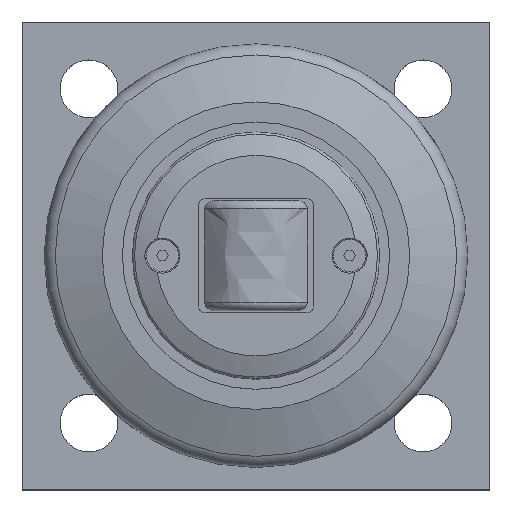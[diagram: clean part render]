
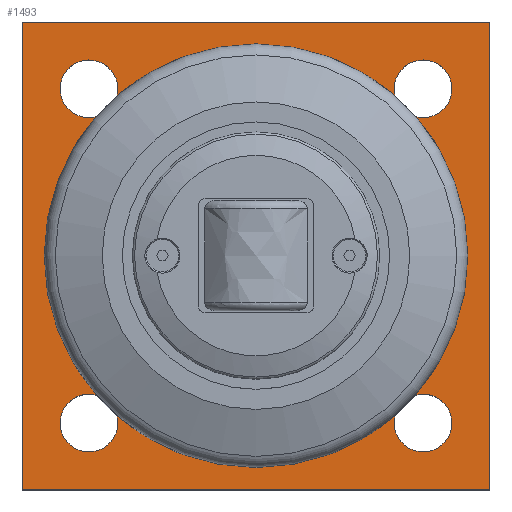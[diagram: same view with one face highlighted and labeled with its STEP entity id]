
A CAD part, top view. The second image highlights one B-rep face of the part: STEP entity #1493.
In plain terms, the highlighted planar face has unit normal (0, 0, 1).
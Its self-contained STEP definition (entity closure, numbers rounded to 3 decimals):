
#80=FACE_BOUND('',#335,.T.);
#81=FACE_BOUND('',#336,.T.);
#82=FACE_BOUND('',#337,.T.);
#83=FACE_BOUND('',#338,.T.);
#84=FACE_BOUND('',#339,.T.);
#167=CIRCLE('',#1670,39.5);
#168=CIRCLE('',#1672,8.647);
#169=CIRCLE('',#1673,8.647);
#170=CIRCLE('',#1674,8.647);
#171=CIRCLE('',#1675,8.647);
#172=CIRCLE('',#1676,8.647);
#173=CIRCLE('',#1677,8.647);
#174=CIRCLE('',#1678,8.647);
#175=CIRCLE('',#1679,8.647);
#245=FACE_OUTER_BOUND('',#334,.T.);
#334=EDGE_LOOP('',(#1289,#1290,#1291,#1292));
#335=EDGE_LOOP('',(#1293));
#336=EDGE_LOOP('',(#1294,#1295));
#337=EDGE_LOOP('',(#1296,#1297));
#338=EDGE_LOOP('',(#1298,#1299));
#339=EDGE_LOOP('',(#1300,#1301));
#439=LINE('',#2656,#550);
#440=LINE('',#2658,#551);
#441=LINE('',#2660,#552);
#442=LINE('',#2661,#553);
#550=VECTOR('',#2062,10.);
#551=VECTOR('',#2063,10.);
#552=VECTOR('',#2064,10.);
#553=VECTOR('',#2065,10.);
#698=VERTEX_POINT('',#2650);
#699=VERTEX_POINT('',#2654);
#700=VERTEX_POINT('',#2655);
#701=VERTEX_POINT('',#2657);
#702=VERTEX_POINT('',#2659);
#703=VERTEX_POINT('',#2662);
#704=VERTEX_POINT('',#2663);
#705=VERTEX_POINT('',#2666);
#706=VERTEX_POINT('',#2667);
#707=VERTEX_POINT('',#2670);
#708=VERTEX_POINT('',#2671);
#709=VERTEX_POINT('',#2674);
#710=VERTEX_POINT('',#2675);
#902=EDGE_CURVE('',#698,#698,#167,.T.);
#903=EDGE_CURVE('',#699,#700,#439,.T.);
#904=EDGE_CURVE('',#701,#699,#440,.T.);
#905=EDGE_CURVE('',#702,#701,#441,.T.);
#906=EDGE_CURVE('',#700,#702,#442,.T.);
#907=EDGE_CURVE('',#703,#704,#168,.T.);
#908=EDGE_CURVE('',#704,#703,#169,.T.);
#909=EDGE_CURVE('',#705,#706,#170,.T.);
#910=EDGE_CURVE('',#706,#705,#171,.T.);
#911=EDGE_CURVE('',#707,#708,#172,.T.);
#912=EDGE_CURVE('',#708,#707,#173,.T.);
#913=EDGE_CURVE('',#709,#710,#174,.T.);
#914=EDGE_CURVE('',#710,#709,#175,.T.);
#1289=ORIENTED_EDGE('',*,*,#903,.F.);
#1290=ORIENTED_EDGE('',*,*,#904,.F.);
#1291=ORIENTED_EDGE('',*,*,#905,.F.);
#1292=ORIENTED_EDGE('',*,*,#906,.F.);
#1293=ORIENTED_EDGE('',*,*,#902,.T.);
#1294=ORIENTED_EDGE('',*,*,#907,.T.);
#1295=ORIENTED_EDGE('',*,*,#908,.T.);
#1296=ORIENTED_EDGE('',*,*,#909,.T.);
#1297=ORIENTED_EDGE('',*,*,#910,.T.);
#1298=ORIENTED_EDGE('',*,*,#911,.T.);
#1299=ORIENTED_EDGE('',*,*,#912,.T.);
#1300=ORIENTED_EDGE('',*,*,#913,.T.);
#1301=ORIENTED_EDGE('',*,*,#914,.T.);
#1416=PLANE('',#1671);
#1493=ADVANCED_FACE('',(#245,#80,#81,#82,#83,#84),#1416,.T.);
#1670=AXIS2_PLACEMENT_3D('',#2652,#2058,#2059);
#1671=AXIS2_PLACEMENT_3D('',#2653,#2060,#2061);
#1672=AXIS2_PLACEMENT_3D('',#2664,#2066,#2067);
#1673=AXIS2_PLACEMENT_3D('',#2665,#2068,#2069);
#1674=AXIS2_PLACEMENT_3D('',#2668,#2070,#2071);
#1675=AXIS2_PLACEMENT_3D('',#2669,#2072,#2073);
#1676=AXIS2_PLACEMENT_3D('',#2672,#2074,#2075);
#1677=AXIS2_PLACEMENT_3D('',#2673,#2076,#2077);
#1678=AXIS2_PLACEMENT_3D('',#2676,#2078,#2079);
#1679=AXIS2_PLACEMENT_3D('',#2677,#2080,#2081);
#2058=DIRECTION('center_axis',(0.,0.,-1.));
#2059=DIRECTION('ref_axis',(-1.,0.,0.));
#2060=DIRECTION('center_axis',(0.,0.,1.));
#2061=DIRECTION('ref_axis',(1.,0.,0.));
#2062=DIRECTION('',(0.,1.,0.));
#2063=DIRECTION('',(-1.,0.,0.));
#2064=DIRECTION('',(0.,-1.,0.));
#2065=DIRECTION('',(1.,0.,0.));
#2066=DIRECTION('center_axis',(0.,0.,-1.));
#2067=DIRECTION('ref_axis',(1.,0.,0.));
#2068=DIRECTION('center_axis',(0.,0.,-1.));
#2069=DIRECTION('ref_axis',(1.,0.,0.));
#2070=DIRECTION('center_axis',(0.,0.,-1.));
#2071=DIRECTION('ref_axis',(1.,0.,0.));
#2072=DIRECTION('center_axis',(0.,0.,-1.));
#2073=DIRECTION('ref_axis',(1.,0.,0.));
#2074=DIRECTION('center_axis',(0.,0.,-1.));
#2075=DIRECTION('ref_axis',(1.,0.,0.));
#2076=DIRECTION('center_axis',(0.,0.,-1.));
#2077=DIRECTION('ref_axis',(1.,0.,0.));
#2078=DIRECTION('center_axis',(0.,0.,-1.));
#2079=DIRECTION('ref_axis',(1.,0.,0.));
#2080=DIRECTION('center_axis',(0.,0.,-1.));
#2081=DIRECTION('ref_axis',(1.,0.,0.));
#2650=CARTESIAN_POINT('',(109.5,70.,20.));
#2652=CARTESIAN_POINT('Origin',(70.,70.,20.));
#2653=CARTESIAN_POINT('Origin',(70.,70.,20.));
#2654=CARTESIAN_POINT('',(0.,0.,20.));
#2655=CARTESIAN_POINT('',(0.,140.,20.));
#2656=CARTESIAN_POINT('',(0.,140.,20.));
#2657=CARTESIAN_POINT('',(140.,0.,20.));
#2658=CARTESIAN_POINT('',(0.,0.,20.));
#2659=CARTESIAN_POINT('',(140.,140.,20.));
#2660=CARTESIAN_POINT('',(140.,0.,20.));
#2661=CARTESIAN_POINT('',(140.,140.,20.));
#2662=CARTESIAN_POINT('',(28.647,120.,20.));
#2663=CARTESIAN_POINT('',(11.353,120.,20.));
#2664=CARTESIAN_POINT('Origin',(20.,120.,20.));
#2665=CARTESIAN_POINT('Origin',(20.,120.,20.));
#2666=CARTESIAN_POINT('',(128.647,120.,20.));
#2667=CARTESIAN_POINT('',(111.353,120.,20.));
#2668=CARTESIAN_POINT('Origin',(120.,120.,20.));
#2669=CARTESIAN_POINT('Origin',(120.,120.,20.));
#2670=CARTESIAN_POINT('',(128.647,20.,20.));
#2671=CARTESIAN_POINT('',(111.353,20.,20.));
#2672=CARTESIAN_POINT('Origin',(120.,20.,20.));
#2673=CARTESIAN_POINT('Origin',(120.,20.,20.));
#2674=CARTESIAN_POINT('',(28.647,20.,20.));
#2675=CARTESIAN_POINT('',(11.353,20.,20.));
#2676=CARTESIAN_POINT('Origin',(20.,20.,20.));
#2677=CARTESIAN_POINT('Origin',(20.,20.,20.));
